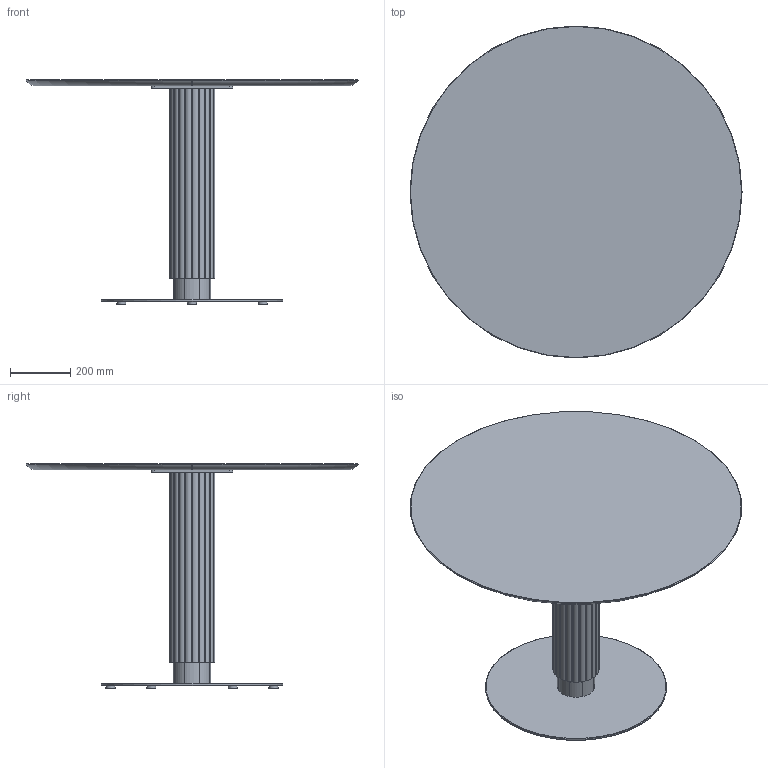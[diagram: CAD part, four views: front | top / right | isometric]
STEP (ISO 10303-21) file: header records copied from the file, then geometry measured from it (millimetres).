
FILE_DESCRIPTION( ('This file contains a STEP AP42 implementation' ,'as created by ZW3D STEP Interface translator.') ,'2;1' );
FILE_NAME( 'God - B_Rond - F1 - M3 - 1100 x 1100 x 750.stp' ,'24 912.113635', (''), ('ZWCAD Software Co.'), 'Version 1.0', 'ZW3D to STEP translator', '' );
FILE_SCHEMA(('AUTOMOTIVE_DESIGN { 1 0 10303 214 1 1 1 1 }'));
Length unit declared in the file: millimetre
Products named in the file (15): 0; PIED BISTROT PARAMETRIQUE_; CROIX ACIER 370 V.02_; CRX-X370-02_; SOCLE ACIER C Ø600 V.02_; SCL-D600-02_; PLA-R30A-01_; PLA-R30A-01; COLONNE ACIER Ø48.5 V.02_; TUB-D048-02_; PLA-R48A-01_; Colonne GODRON H700_; WUERTH 0276063020 Euro-screw 6.3x2 Verzinkt_; PLATEAU BISTROT PARAMETRIQUE_; insert_m6_13_
Assembly tree (25 placements, depth 3):
  0
  PIED BISTROT PARAMETRIQUE_
    CROIX ACIER 370 V.02_
      CRX-X370-02_
    SOCLE ACIER C Ø600 V.02_
      SCL-D600-02_
      PLA-R30A-01_
      PLA-R30A-01  x5
    COLONNE ACIER Ø48.5 V.02_
      TUB-D048-02_
      PLA-R48A-01_  x2
    Colonne GODRON H700_
    WUERTH 0276063020 Euro-screw 6.3x2 Verzinkt_
    PLATEAU BISTROT PARAMETRIQUE_
      insert_m6_13_  x8
Bounding box: 1100 x 1100 x 744 mm (x, y, z)
Volume: 31813486.2 mm3; surface area: 3928557.9 mm2
Topology: 29 solids, 29 shells, 656 faces, 1625 edges, 1042 vertices
Faces by surface type: plane 290, cylinder 197, bspline 121, cone 43, torus 5
Full cylindrical faces by diameter (mm): 4.88 x1, 6 x8, 6.3 x1, 8 x47, 12 x2, 14 x2, 30 x6, 44.5 x3, 48.5 x1, 600 x1
Entity records: 16242 total; most frequent: CARTESIAN_POINT 4039, DIRECTION 2257, ORIENTED_EDGE 2240, EDGE_CURVE 1120, AXIS2_PLACEMENT_3D 808, VERTEX_POINT 728, VECTOR 641, LINE 641
